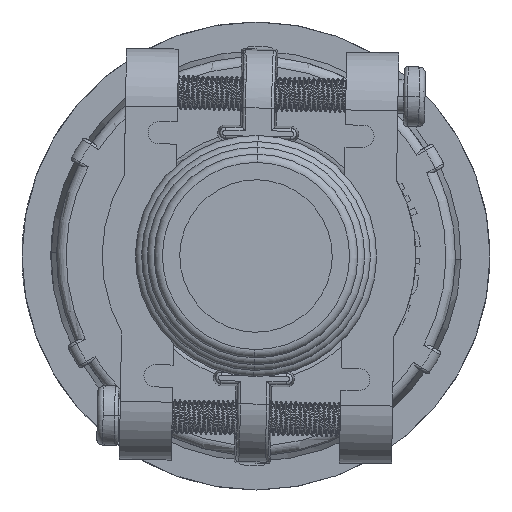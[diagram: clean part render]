
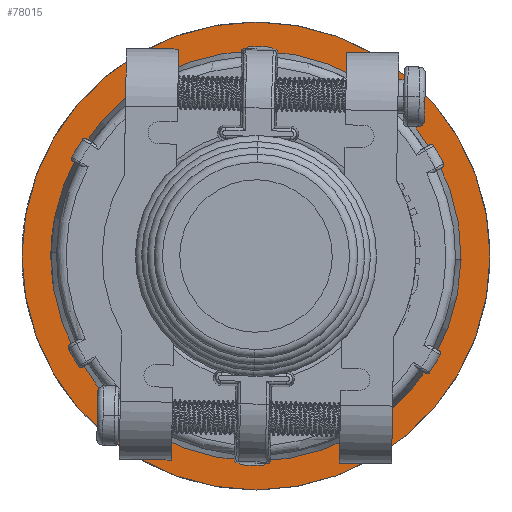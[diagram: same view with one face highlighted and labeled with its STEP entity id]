
A CAD part, left-side view. The second image highlights one B-rep face of the part: STEP entity #78015.
In plain terms, the highlighted planar face has unit normal (-1, 0, 0).
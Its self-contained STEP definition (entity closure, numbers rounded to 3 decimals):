
#16923=CARTESIAN_POINT('',(24.528,25.,
-25.));
#16924=DIRECTION('',(1.,0.,0.));
#16925=DIRECTION('',(0.,-1.,0.));
#16926=AXIS2_PLACEMENT_3D('',#16923,#16924,#16925);
#16928=CARTESIAN_POINT('',(24.528,25.,
-25.));
#16929=DIRECTION('',(1.,0.,0.));
#16930=DIRECTION('',(0.,1.,0.));
#16931=AXIS2_PLACEMENT_3D('',#16928,#16929,#16930);
#16933=CARTESIAN_POINT('',(24.528,25.,
-25.));
#16934=DIRECTION('',(-1.,0.,0.));
#16935=DIRECTION('',(0.,1.,0.));
#16936=AXIS2_PLACEMENT_3D('',#16933,#16934,#16935);
#16938=CARTESIAN_POINT('',(24.528,25.,
-25.));
#16939=DIRECTION('',(-1.,0.,0.));
#16940=DIRECTION('',(0.,1.,-0.006));
#16941=AXIS2_PLACEMENT_3D('',#16938,#16939,#16940);
#16943=CARTESIAN_POINT('',(24.528,25.,
-25.));
#16944=DIRECTION('',(-1.,0.,0.));
#16945=DIRECTION('',(0.,-1.,0.));
#16946=AXIS2_PLACEMENT_3D('',#16943,#16944,#16945);
#16948=CARTESIAN_POINT('',(24.528,25.,
-25.));
#16949=DIRECTION('',(-1.,0.,0.));
#16950=DIRECTION('',(0.,-1.,0.006));
#16951=AXIS2_PLACEMENT_3D('',#16948,#16949,#16950);
#45966=CARTESIAN_POINT('',(24.528,4.902,
-25.));
#45967=CARTESIAN_POINT('',(24.528,4.903,
-24.872));
#45968=VERTEX_POINT('',#45966);
#45969=VERTEX_POINT('',#45967);
#45972=CARTESIAN_POINT('',(24.528,45.098,
-25.));
#45973=CARTESIAN_POINT('',(24.528,45.097,
-25.128));
#45974=VERTEX_POINT('',#45972);
#45975=VERTEX_POINT('',#45973);
#45978=CARTESIAN_POINT('',(24.528,0.75,
-25.));
#45979=CARTESIAN_POINT('',(24.528,49.25,
-25.));
#45980=VERTEX_POINT('',#45978);
#45981=VERTEX_POINT('',#45979);
#77995=CARTESIAN_POINT('',(24.528,25.,
-25.));
#77996=DIRECTION('',(1.,0.,0.));
#77997=DIRECTION('',(0.,-1.,0.));
#77998=AXIS2_PLACEMENT_3D('',#77995,#77996,#77997);
#77999=PLANE('',#77998);
#78000=ORIENTED_EDGE('',*,*,#77944,.T.);
#78002=ORIENTED_EDGE('',*,*,#78001,.T.);
#78003=EDGE_LOOP('',(#78000,#78002));
#78004=FACE_OUTER_BOUND('',#78003,.F.);
#78006=ORIENTED_EDGE('',*,*,#78005,.T.);
#78008=ORIENTED_EDGE('',*,*,#78007,.T.);
#78010=ORIENTED_EDGE('',*,*,#78009,.T.);
#78012=ORIENTED_EDGE('',*,*,#78011,.T.);
#78013=EDGE_LOOP('',(#78006,#78008,#78010,#78012));
#78014=FACE_BOUND('',#78013,.F.);
#78015=ADVANCED_FACE('',(#78004,#78014),#77999,.F.);
#16927=CIRCLE('',#16926,24.25);
#16932=CIRCLE('',#16931,24.25);
#16937=CIRCLE('',#16936,20.098);
#16942=CIRCLE('',#16941,20.098);
#16947=CIRCLE('',#16946,20.098);
#16952=CIRCLE('',#16951,20.098);
#77944=EDGE_CURVE('',#45980,#45981,#16927,.T.);
#78001=EDGE_CURVE('',#45981,#45980,#16932,.T.);
#78005=EDGE_CURVE('',#45974,#45975,#16937,.T.);
#78007=EDGE_CURVE('',#45975,#45968,#16942,.T.);
#78009=EDGE_CURVE('',#45968,#45969,#16947,.T.);
#78011=EDGE_CURVE('',#45969,#45974,#16952,.T.);
